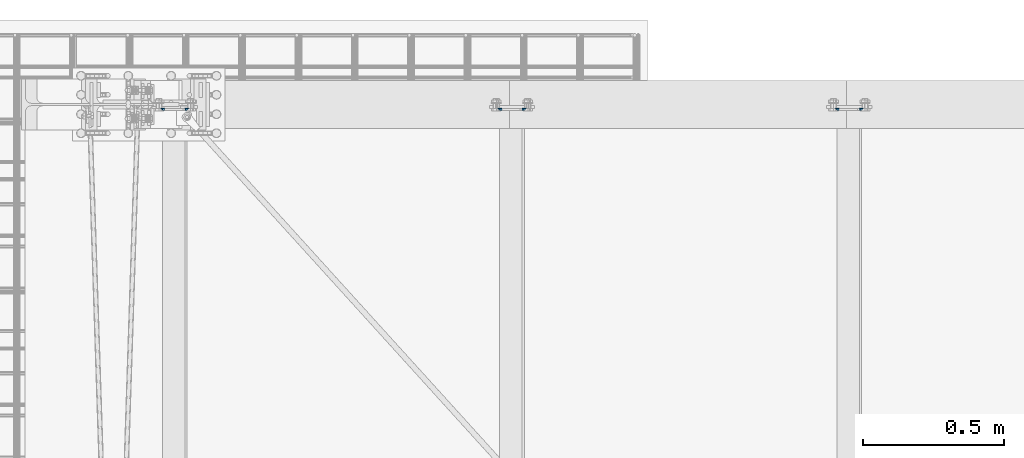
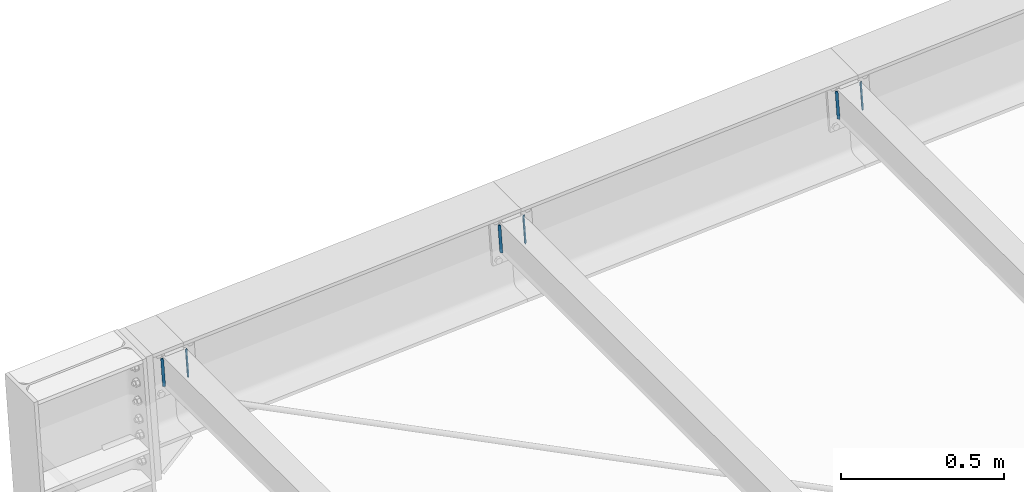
# One storey, part 23 of 72: 12 fasteners.
"""IFC4 building model written with IfcOpenShell, lengths in metres."""

from ifc_helpers import new_model, si_unit, frame, origin_with_axes, place, context, project, spatial, polyline, outline, extrude, type_object, element, save


model = new_model("IFC4")

# Units and contexts
model_context = context("Model", 3, precision=1e-05, world=origin_with_axes())
ifc_project = project(units=[si_unit("LENGTHUNIT", "METRE"), si_unit("AREAUNIT", "SQUARE_METRE"), si_unit("VOLUMEUNIT", "CUBIC_METRE"), si_unit("MASSUNIT", "GRAM", prefix="KILO"), si_unit("TIMEUNIT", "SECOND"), si_unit("PLANEANGLEUNIT", "RADIAN"), si_unit("SOLIDANGLEUNIT", "STERADIAN"), si_unit("THERMODYNAMICTEMPERATUREUNIT", "DEGREE_CELSIUS")], contexts=[model_context])

# Site, building, storey
placement_1 = place(None, origin_with_axes())
site = spatial("IfcSite", under=ifc_project, at=placement_1, Name="Italia", CompositionType="ELEMENT")
building = spatial("IfcBuilding", under=site, at=placement_1, Name="Pensilina", CompositionType="ELEMENT")
storey = spatial("IfcBuildingStorey", under=building, at=placement_1, Name="Storey 0", CompositionType="ELEMENT", Elevation=0.0)

# Fasteners
fastener_type_1 = type_object("IfcFastenerType", Name="Collegamento 0205_0204", PredefinedType="WELD")
placement_2 = place(placement_1, origin_with_axes())
fastener_1_placement = place(placement_2, origin_with_axes())
element("IfcFastener", 1, at=fastener_1_placement, inside=storey, type_object=fastener_type_1, Name="Collegamento 0205_0204", context=model_context, shape_type="SweptSolid", body=[
    extrude(outline(polyline([(0.0, 0.0, 0.0), (-0.00717354, 0.00695825, 0.0), (0.0, 0.00695825, 0.0), (0.0, 0.0, 0.0)])), frame((0.970676, 21.106, 3.74635), z_axis=(0.067317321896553, 0.0, -0.997731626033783), x_axis=(0.0, 1.0, 0.0)), (0.0, 0.0, 1.0), 0.1061),
])
fastener_type_2 = type_object("IfcFastenerType", Name="Collegamento 0205_0204", PredefinedType="WELD")
fastener_2_placement = place(placement_2, origin_with_axes())
element("IfcFastener", 2, at=fastener_2_placement, inside=storey, type_object=fastener_type_2, Name="Collegamento 0205_0204", context=model_context, shape_type="SweptSolid", body=[
    extrude(outline(polyline([(0.0, 0.0, 0.0), (0.00717354, -0.00695825, 0.0), (0.0, -0.00695825, 0.0), (0.0, 0.0, 0.0)])), frame((1.07142, 21.106, 3.64681), z_axis=(-0.067317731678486, 0.0, 0.997731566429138), x_axis=(0.0, -1.0, 0.0)), (0.0, 0.0, 1.0), 0.1061),
])
fastener_type_3 = type_object("IfcFastenerType", Name="Collegamento 0205_0204", PredefinedType="WELD")
fastener_3_placement = place(placement_2, origin_with_axes())
element("IfcFastener", 3, at=fastener_3_placement, inside=storey, type_object=fastener_type_3, Name="Collegamento 0205_0204", context=model_context, shape_type="SweptSolid", body=[
    extrude(outline(polyline([(0.0, 0.0, 0.0), (-0.00717354, 0.00695825, 0.0), (0.0, 0.00695825, 0.0), (0.0, 0.0, 0.0)])), frame((0.970676, 21.106, 3.74635), z_axis=(0.067317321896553, 0.0, -0.997731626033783), x_axis=(0.0, 1.0, 0.0)), (0.0, 0.0, 1.0), 0.1061),
])
fastener_type_4 = type_object("IfcFastenerType", Name="Collegamento 0205_0204", PredefinedType="WELD")
fastener_4_placement = place(placement_2, origin_with_axes())
element("IfcFastener", 4, at=fastener_4_placement, inside=storey, type_object=fastener_type_4, Name="Collegamento 0205_0204", context=model_context, shape_type="SweptSolid", body=[
    extrude(outline(polyline([(0.0, 0.0, 0.0), (0.00717354, -0.00695825, 0.0), (0.0, -0.00695825, 0.0), (0.0, 0.0, 0.0)])), frame((1.07142, 21.106, 3.64681), z_axis=(-0.067317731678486, 0.0, 0.997731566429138), x_axis=(0.0, -1.0, 0.0)), (0.0, 0.0, 1.0), 0.1061),
])
fastener_type_5 = type_object("IfcFastenerType", Name="Collegamento 0305_0304", PredefinedType="WELD")
fastener_5_placement = place(placement_2, origin_with_axes())
element("IfcFastener", 5, at=fastener_5_placement, inside=storey, type_object=fastener_type_5, Name="Collegamento 0305_0304", context=model_context, shape_type="SweptSolid", body=[
    extrude(outline(polyline([(0.0, 0.0, 0.0), (-0.00717354, 0.00695848, 0.0), (0.0, 0.00695848, 0.0), (0.0, 0.0, 0.0)])), frame((2.1679, 21.106, 3.8286), z_axis=(0.067318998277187, 0.0, -0.997731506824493), x_axis=(0.0, 1.0, 0.0)), (0.0, 0.0, 1.0), 0.1061),
])
fastener_type_6 = type_object("IfcFastenerType", Name="Collegamento 0305_0304", PredefinedType="WELD")
fastener_6_placement = place(placement_2, origin_with_axes())
element("IfcFastener", 6, at=fastener_6_placement, inside=storey, type_object=fastener_type_6, Name="Collegamento 0305_0304", context=model_context, shape_type="SweptSolid", body=[
    extrude(outline(polyline([(0.0, 0.0, 0.0), (0.00717354, -0.00695825, 0.0), (0.0, -0.00695825, 0.0), (0.0, 0.0, 0.0)])), frame((2.26864, 21.106, 3.72906), z_axis=(-0.067318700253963, 0.0, 0.997731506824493), x_axis=(0.0, -1.0, 0.0)), (0.0, 0.0, 1.0), 0.1061),
])
fastener_type_7 = type_object("IfcFastenerType", Name="Collegamento 0305_0304", PredefinedType="WELD")
fastener_7_placement = place(placement_2, origin_with_axes())
element("IfcFastener", 7, at=fastener_7_placement, inside=storey, type_object=fastener_type_7, Name="Collegamento 0305_0304", context=model_context, shape_type="SweptSolid", body=[
    extrude(outline(polyline([(0.0, 0.0, 0.0), (-0.00717354, 0.00695848, 0.0), (0.0, 0.00695848, 0.0), (0.0, 0.0, 0.0)])), frame((2.1679, 21.106, 3.8286), z_axis=(0.067318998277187, 0.0, -0.997731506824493), x_axis=(0.0, 1.0, 0.0)), (0.0, 0.0, 1.0), 0.1061),
])
fastener_type_8 = type_object("IfcFastenerType", Name="Collegamento 0305_0304", PredefinedType="WELD")
fastener_8_placement = place(placement_2, origin_with_axes())
element("IfcFastener", 8, at=fastener_8_placement, inside=storey, type_object=fastener_type_8, Name="Collegamento 0305_0304", context=model_context, shape_type="SweptSolid", body=[
    extrude(outline(polyline([(0.0, 0.0, 0.0), (0.00717354, -0.00695825, 0.0), (0.0, -0.00695825, 0.0), (0.0, 0.0, 0.0)])), frame((2.26864, 21.106, 3.72906), z_axis=(-0.067318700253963, 0.0, 0.997731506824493), x_axis=(0.0, -1.0, 0.0)), (0.0, 0.0, 1.0), 0.1061),
])
fastener_type_9 = type_object("IfcFastenerType", Name="Collegamento 0405_0404", PredefinedType="WELD")
fastener_9_placement = place(placement_2, origin_with_axes())
element("IfcFastener", 9, at=fastener_9_placement, inside=storey, type_object=fastener_type_9, Name="Collegamento 0405_0404", context=model_context, shape_type="SweptSolid", body=[
    extrude(outline(polyline([(0.0, 0.0, 0.0), (-0.00717354, 0.00695825, 0.0), (0.0, 0.00695825, 0.0), (0.0, 0.0, 0.0)])), frame((3.36503, 21.106, 3.91085), z_axis=(0.067318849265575, 0.0, -0.997731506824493), x_axis=(0.0, 1.0, 0.0)), (0.0, 0.0, 1.0), 0.1061),
])
fastener_type_10 = type_object("IfcFastenerType", Name="Collegamento 0405_0404", PredefinedType="WELD")
fastener_10_placement = place(placement_2, origin_with_axes())
element("IfcFastener", 10, at=fastener_10_placement, inside=storey, type_object=fastener_type_10, Name="Collegamento 0405_0404", context=model_context, shape_type="SweptSolid", body=[
    extrude(outline(polyline([(0.0, 0.0, 0.0), (0.00717354, -0.00695825, 0.0), (0.0, -0.00695825, 0.0), (0.0, 0.0, 0.0)])), frame((3.46577, 21.106, 3.8113), z_axis=(-0.067318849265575, 0.0, 0.997731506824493), x_axis=(0.0, -1.0, 0.0)), (0.0, 0.0, 1.0), 0.1061),
])
fastener_type_11 = type_object("IfcFastenerType", Name="Collegamento 0405_0404", PredefinedType="WELD")
fastener_11_placement = place(placement_2, origin_with_axes())
element("IfcFastener", 11, at=fastener_11_placement, inside=storey, type_object=fastener_type_11, Name="Collegamento 0405_0404", context=model_context, shape_type="SweptSolid", body=[
    extrude(outline(polyline([(0.0, 0.0, 0.0), (-0.00717354, 0.00695825, 0.0), (0.0, 0.00695825, 0.0), (0.0, 0.0, 0.0)])), frame((3.36503, 21.106, 3.91085), z_axis=(0.067318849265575, 0.0, -0.997731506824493), x_axis=(0.0, 1.0, 0.0)), (0.0, 0.0, 1.0), 0.1061),
])
fastener_type_12 = type_object("IfcFastenerType", Name="Collegamento 0405_0404", PredefinedType="WELD")
fastener_12_placement = place(placement_2, origin_with_axes())
element("IfcFastener", 12, at=fastener_12_placement, inside=storey, type_object=fastener_type_12, Name="Collegamento 0405_0404", context=model_context, shape_type="SweptSolid", body=[
    extrude(outline(polyline([(0.0, 0.0, 0.0), (0.00717354, -0.00695825, 0.0), (0.0, -0.00695825, 0.0), (0.0, 0.0, 0.0)])), frame((3.46577, 21.106, 3.8113), z_axis=(-0.067318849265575, 0.0, 0.997731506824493), x_axis=(0.0, -1.0, 0.0)), (0.0, 0.0, 1.0), 0.1061),
])

save(model, "model.ifc")
